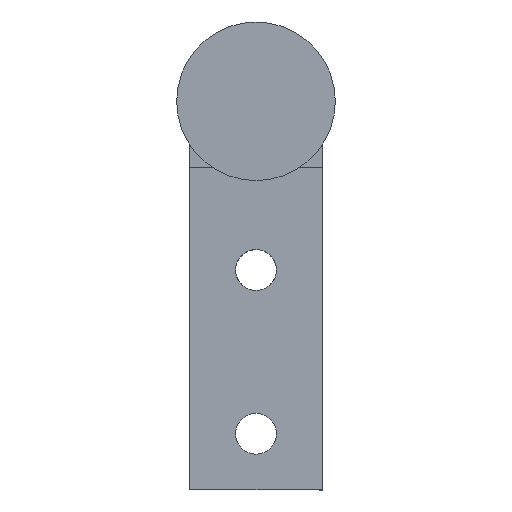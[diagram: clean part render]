
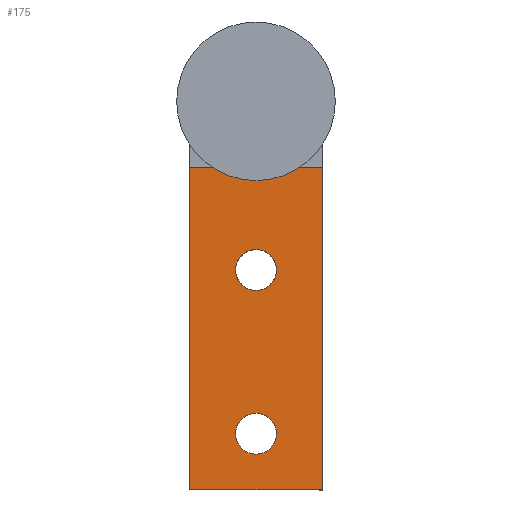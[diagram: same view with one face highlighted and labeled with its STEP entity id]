
A CAD part, front view. The second image highlights one B-rep face of the part: STEP entity #175.
In plain terms, the highlighted planar face has unit normal (0, -1, 0).
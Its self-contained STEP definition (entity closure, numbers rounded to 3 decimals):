
#1 = LINE ( 'NONE', #611, #9 ) ;
#9 = VECTOR ( 'NONE', #604, 1000. ) ;
#15 = CIRCLE ( 'NONE', #339, 2. ) ;
#17 = CIRCLE ( 'NONE', #282, 2. ) ;
#31 = CIRCLE ( 'NONE', #317, 2. ) ;
#72 = LINE ( 'NONE', #536, #93 ) ;
#89 = FACE_OUTER_BOUND ( 'NONE', #670, .T. ) ;
#91 = FACE_BOUND ( 'NONE', #669, .T. ) ;
#93 = VECTOR ( 'NONE', #535, 1000. ) ;
#96 = FACE_BOUND ( 'NONE', #715, .T. ) ;
#106 = ORIENTED_EDGE ( 'NONE', *, *, #328, .T. ) ;
#107 = ORIENTED_EDGE ( 'NONE', *, *, #356, .F. ) ;
#108 = ORIENTED_EDGE ( 'NONE', *, *, #252, .F. ) ;
#109 = ORIENTED_EDGE ( 'NONE', *, *, #311, .T. ) ;
#110 = ORIENTED_EDGE ( 'NONE', *, *, #318, .F. ) ;
#111 = ORIENTED_EDGE ( 'NONE', *, *, #264, .F. ) ;
#112 = ORIENTED_EDGE ( 'NONE', *, *, #274, .F. ) ;
#113 = ORIENTED_EDGE ( 'NONE', *, *, #276, .F. ) ;
#119 = CARTESIAN_POINT ( 'NONE',  ( 6.5, 389.8, -6.5 ) ) ;
#127 = VERTEX_POINT ( 'NONE', #119 ) ;
#128 = VERTEX_POINT ( 'NONE', #555 ) ;
#130 = VERTEX_POINT ( 'NONE', #550 ) ;
#133 = VERTEX_POINT ( 'NONE', #583 ) ;
#141 = VERTEX_POINT ( 'NONE', #569 ) ;
#148 = VERTEX_POINT ( 'NONE', #560 ) ;
#150 = VERTEX_POINT ( 'NONE', #562 ) ;
#156 = VERTEX_POINT ( 'NONE', #621 ) ;
#175 = ADVANCED_FACE ( 'NONE', ( #96, #91, #89 ), #597, .T. ) ;
#199 = VECTOR ( 'NONE', #431, 1000. ) ;
#200 = LINE ( 'NONE', #427, #199 ) ;
#220 = VECTOR ( 'NONE', #467, 1000. ) ;
#221 = LINE ( 'NONE', #398, #220 ) ;
#230 = CIRCLE ( 'NONE', #261, 2. ) ;
#252 = EDGE_CURVE ( 'NONE', #133, #128, #72, .T. ) ;
#261 = AXIS2_PLACEMENT_3D ( 'NONE', #601, #451, #384 ) ;
#264 = EDGE_CURVE ( 'NONE', #141, #130, #31, .T. ) ;
#274 = EDGE_CURVE ( 'NONE', #148, #150, #17, .T. ) ;
#276 = EDGE_CURVE ( 'NONE', #150, #148, #15, .T. ) ;
#282 = AXIS2_PLACEMENT_3D ( 'NONE', #493, #497, #498 ) ;
#311 = EDGE_CURVE ( 'NONE', #127, #128, #1, .T. ) ;
#317 = AXIS2_PLACEMENT_3D ( 'NONE', #544, #531, #529 ) ;
#318 = EDGE_CURVE ( 'NONE', #130, #141, #230, .T. ) ;
#328 = EDGE_CURVE ( 'NONE', #156, #127, #221, .T. ) ;
#333 = AXIS2_PLACEMENT_3D ( 'NONE', #587, #527, #526 ) ;
#339 = AXIS2_PLACEMENT_3D ( 'NONE', #478, #479, #481 ) ;
#356 = EDGE_CURVE ( 'NONE', #156, #133, #200, .T. ) ;
#384 = DIRECTION ( 'NONE',  ( -1., 0., 0. ) ) ;
#398 = CARTESIAN_POINT ( 'NONE',  ( 6.5, 389.8, -38. ) ) ;
#427 = CARTESIAN_POINT ( 'NONE',  ( 6.5, 389.8, -38. ) ) ;
#431 = DIRECTION ( 'NONE',  ( -1., 0., 0. ) ) ;
#451 = DIRECTION ( 'NONE',  ( 0., -1., 0. ) ) ;
#467 = DIRECTION ( 'NONE',  ( 0., 0., 1. ) ) ;
#478 = CARTESIAN_POINT ( 'NONE',  ( 0., 389.8, -16.5 ) ) ;
#479 = DIRECTION ( 'NONE',  ( 0., -1., 0. ) ) ;
#481 = DIRECTION ( 'NONE',  ( -1., 0., 0. ) ) ;
#493 = CARTESIAN_POINT ( 'NONE',  ( 0., 389.8, -16.5 ) ) ;
#497 = DIRECTION ( 'NONE',  ( 0., -1., 0. ) ) ;
#498 = DIRECTION ( 'NONE',  ( -1., 0., 0. ) ) ;
#526 = DIRECTION ( 'NONE',  ( -1., 0., 0. ) ) ;
#527 = DIRECTION ( 'NONE',  ( 0., -1., 0. ) ) ;
#529 = DIRECTION ( 'NONE',  ( -1., 0., 0. ) ) ;
#531 = DIRECTION ( 'NONE',  ( 0., -1., 0. ) ) ;
#535 = DIRECTION ( 'NONE',  ( 0., 0., 1. ) ) ;
#536 = CARTESIAN_POINT ( 'NONE',  ( -6.5, 389.8, -38. ) ) ;
#544 = CARTESIAN_POINT ( 'NONE',  ( 0., 389.8, -32.5 ) ) ;
#550 = CARTESIAN_POINT ( 'NONE',  ( 2., 389.8, -32.5 ) ) ;
#555 = CARTESIAN_POINT ( 'NONE',  ( -6.5, 389.8, -6.5 ) ) ;
#560 = CARTESIAN_POINT ( 'NONE',  ( 2., 389.8, -16.5 ) ) ;
#562 = CARTESIAN_POINT ( 'NONE',  ( -2., 389.8, -16.5 ) ) ;
#569 = CARTESIAN_POINT ( 'NONE',  ( -2., 389.8, -32.5 ) ) ;
#583 = CARTESIAN_POINT ( 'NONE',  ( -6.5, 389.8, -38. ) ) ;
#587 = CARTESIAN_POINT ( 'NONE',  ( 6.5, 389.8, -38. ) ) ;
#597 = PLANE ( 'NONE',  #333 ) ;
#601 = CARTESIAN_POINT ( 'NONE',  ( 0., 389.8, -32.5 ) ) ;
#604 = DIRECTION ( 'NONE',  ( -1., 0., 0. ) ) ;
#611 = CARTESIAN_POINT ( 'NONE',  ( 6.5, 389.8, -6.5 ) ) ;
#621 = CARTESIAN_POINT ( 'NONE',  ( 6.5, 389.8, -38. ) ) ;
#669 = EDGE_LOOP ( 'NONE', ( #111, #110 ) ) ;
#670 = EDGE_LOOP ( 'NONE', ( #109, #108, #107, #106 ) ) ;
#715 = EDGE_LOOP ( 'NONE', ( #113, #112 ) ) ;
